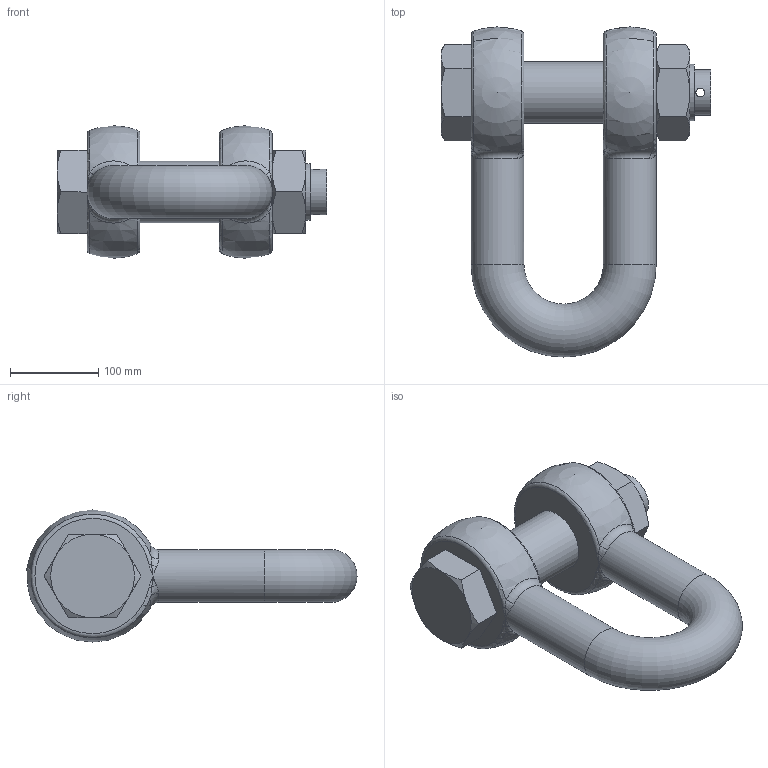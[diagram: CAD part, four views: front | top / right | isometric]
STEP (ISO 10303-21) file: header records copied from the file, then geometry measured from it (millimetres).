
FILE_DESCRIPTION(/* description */ (''),/* implementation_level */ '2;1');
FILE_NAME(/* name */ 'C:\Users\D\Documents\Inventor\HP\吊具\シャックル\SB_2\sb_60.stp',/* time_stamp */ '2024-11-14T11:44:22+09:00',/* author */ ('D'),/* organization */ (''),/* preprocessor_version */ 'ST-DEVELOPER v18',/* originating_system */ 'Autodesk Inventor 2020',/* authorisation */ '');
FILE_SCHEMA (('AUTOMOTIVE_DESIGN { 1 0 10303 214 3 1 1 }'));
Length unit declared in the file: millimetre
Products named in the file (3): sb_60; sb_6; sb_pin_10
Assembly tree (2 placements, depth 2):
  sb_60
    sb_6
    sb_pin_10
Bounding box: 306 x 374.45 x 150 mm (x, y, z)
Volume: 4295974.1 mm3; surface area: 309908.7 mm2
Topology: 2 solids, 2 shells, 85 faces, 219 edges, 121 vertices
Faces by surface type: bspline 24, plane 22, cone 19, cylinder 9, torus 9, sphere 2
Full cylindrical faces by diameter (mm): 10 x1, 52 x1, 60 x2, 64 x2, 70 x1, 72 x2
Entity records: 3272 total; most frequent: CARTESIAN_POINT 1413, ORIENTED_EDGE 398, DIRECTION 339, EDGE_CURVE 199, AXIS2_PLACEMENT_3D 155, VERTEX_POINT 121, EDGE_LOOP 94, CIRCLE 89
